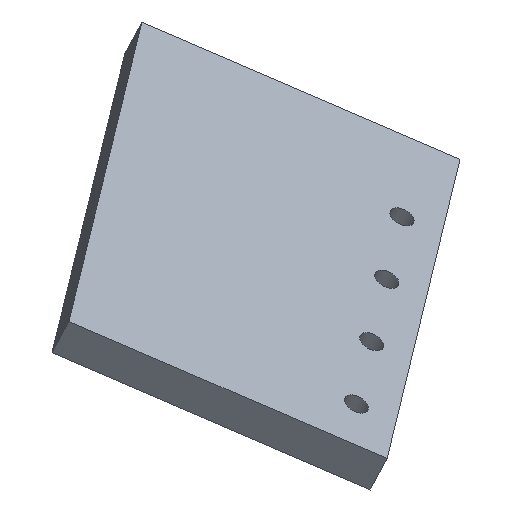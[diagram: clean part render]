
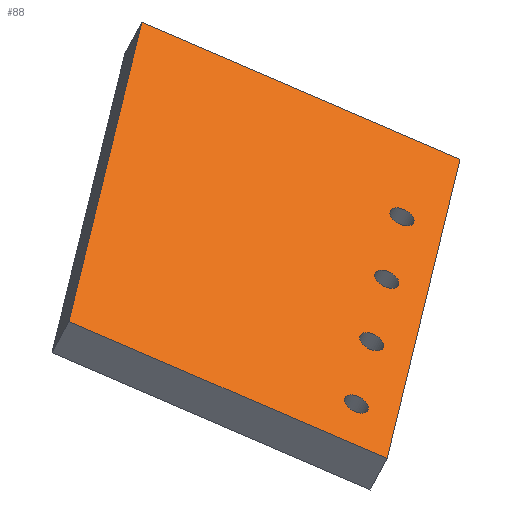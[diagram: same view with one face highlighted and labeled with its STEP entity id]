
A CAD part, isometric view. The second image highlights one B-rep face of the part: STEP entity #88.
In plain terms, the highlighted planar face has unit normal (0.235, -0.312, 0.92).
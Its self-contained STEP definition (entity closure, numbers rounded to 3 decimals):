
#24 = VERTEX_POINT('',#25);
#25 = CARTESIAN_POINT('',(15.351,-10.121,38.205
    ));
#40 = VERTEX_POINT('',#41);
#41 = CARTESIAN_POINT('',(-28.966,48.691,
    69.464));
#47 = EDGE_CURVE('',#24,#40,#48,.T.);
#48 = LINE('',#49,#50);
#49 = CARTESIAN_POINT('',(15.351,-10.121,38.205
    ));
#50 = VECTOR('',#51,1.);
#51 = DIRECTION('',(-0.554,0.735,0.391));
#70 = EDGE_CURVE('',#24,#71,#73,.T.);
#71 = VERTEX_POINT('',#72);
#72 = CARTESIAN_POINT('',(111.188,62.097,
    38.205));
#73 = LINE('',#74,#75);
#74 = CARTESIAN_POINT('',(15.351,-10.121,38.205
    ));
#75 = VECTOR('',#76,1.);
#76 = DIRECTION('',(0.799,0.602,0.));
#88 = ADVANCED_FACE('',(#89,#107,#118,#129,#140),#151,.T.);
#89 = FACE_BOUND('',#90,.T.);
#90 = EDGE_LOOP('',(#91,#92,#93,#101));
#91 = ORIENTED_EDGE('',*,*,#47,.F.);
#92 = ORIENTED_EDGE('',*,*,#70,.T.);
#93 = ORIENTED_EDGE('',*,*,#94,.T.);
#94 = EDGE_CURVE('',#71,#95,#97,.T.);
#95 = VERTEX_POINT('',#96);
#96 = CARTESIAN_POINT('',(66.87,120.909,
    69.464));
#97 = LINE('',#98,#99);
#98 = CARTESIAN_POINT('',(111.188,62.097,
    38.205));
#99 = VECTOR('',#100,1.);
#100 = DIRECTION('',(-0.554,0.735,0.391));
#101 = ORIENTED_EDGE('',*,*,#102,.F.);
#102 = EDGE_CURVE('',#40,#95,#103,.T.);
#103 = LINE('',#104,#105);
#104 = CARTESIAN_POINT('',(-28.966,48.691,
    69.464));
#105 = VECTOR('',#106,1.);
#106 = DIRECTION('',(0.799,0.602,0.));
#107 = FACE_BOUND('',#108,.T.);
#108 = EDGE_LOOP('',(#109));
#109 = ORIENTED_EDGE('',*,*,#110,.F.);
#110 = EDGE_CURVE('',#111,#111,#113,.T.);
#111 = VERTEX_POINT('',#112);
#112 = CARTESIAN_POINT('',(24.187,8.064,
    42.112));
#113 = CIRCLE('',#114,3.);
#114 = AXIS2_PLACEMENT_3D('',#115,#116,#117);
#115 = CARTESIAN_POINT('',(21.791,6.258,
    42.112));
#116 = DIRECTION('',(0.235,-0.312,0.921));
#117 = DIRECTION('',(0.799,0.602,0.));
#118 = FACE_BOUND('',#119,.T.);
#119 = EDGE_LOOP('',(#120));
#120 = ORIENTED_EDGE('',*,*,#121,.F.);
#121 = EDGE_CURVE('',#122,#122,#124,.T.);
#122 = VERTEX_POINT('',#123);
#123 = CARTESIAN_POINT('',(44.153,23.109,
    42.112));
#124 = CIRCLE('',#125,3.);
#125 = AXIS2_PLACEMENT_3D('',#126,#127,#128);
#126 = CARTESIAN_POINT('',(41.757,21.304,
    42.112));
#127 = DIRECTION('',(0.235,-0.312,0.921));
#128 = DIRECTION('',(0.799,0.602,0.));
#129 = FACE_BOUND('',#130,.T.);
#130 = EDGE_LOOP('',(#131));
#131 = ORIENTED_EDGE('',*,*,#132,.F.);
#132 = EDGE_CURVE('',#133,#133,#135,.T.);
#133 = VERTEX_POINT('',#134);
#134 = CARTESIAN_POINT('',(64.119,38.154,
    42.112));
#135 = CIRCLE('',#136,3.);
#136 = AXIS2_PLACEMENT_3D('',#137,#138,#139);
#137 = CARTESIAN_POINT('',(61.723,36.349,
    42.112));
#138 = DIRECTION('',(0.235,-0.312,0.921));
#139 = DIRECTION('',(0.799,0.602,0.));
#140 = FACE_BOUND('',#141,.T.);
#141 = EDGE_LOOP('',(#142));
#142 = ORIENTED_EDGE('',*,*,#143,.F.);
#143 = EDGE_CURVE('',#144,#144,#146,.T.);
#144 = VERTEX_POINT('',#145);
#145 = CARTESIAN_POINT('',(84.085,53.2,
    42.112));
#146 = CIRCLE('',#147,3.);
#147 = AXIS2_PLACEMENT_3D('',#148,#149,#150);
#148 = CARTESIAN_POINT('',(81.689,51.394,
    42.112));
#149 = DIRECTION('',(0.235,-0.312,0.921));
#150 = DIRECTION('',(0.799,0.602,0.));
#151 = PLANE('',#152);
#152 = AXIS2_PLACEMENT_3D('',#153,#154,#155);
#153 = CARTESIAN_POINT('',(15.351,-10.121,
    38.205));
#154 = DIRECTION('',(0.235,-0.312,0.921));
#155 = DIRECTION('',(0.799,0.602,0.));
